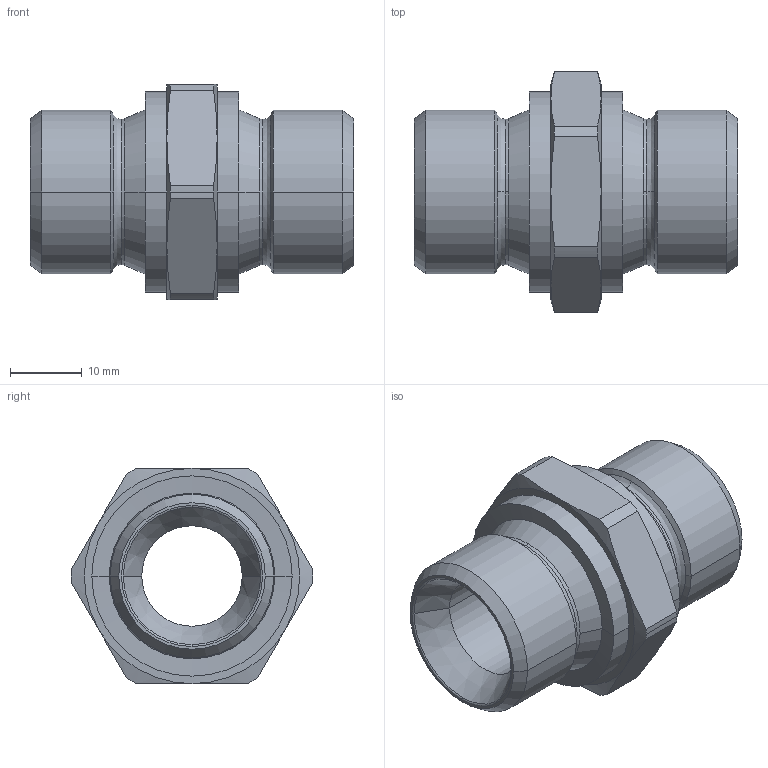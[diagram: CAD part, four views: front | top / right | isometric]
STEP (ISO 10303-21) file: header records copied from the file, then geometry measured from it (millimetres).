
FILE_DESCRIPTION((''),'2;1');
FILE_NAME('300516.stp','2006-09-11T08:11:53',(''),(''),'AutoCAD STEP 2000i','AutoCAD 2000i',', , ');
FILE_SCHEMA(('CONFIG_CONTROL_DESIGN'));
Length unit declared in the file: millimetre
Products named in the file (2): 300516.0; CHIAVE SMUSSATA#0
Assembly tree (1 placements, depth 2):
  300516.0
    CHIAVE SMUSSATA#0
Bounding box: 45 x 33.7 x 30 mm (x, y, z)
Volume: 13953.3 mm3; surface area: 6549.6 mm2
Topology: 1 solids, 1 shells, 72 faces, 170 edges, 102 vertices
Faces by surface type: cone 32, cylinder 18, plane 10, bspline 8, torus 4
Entity records: 2493 total; most frequent: CARTESIAN_POINT 746, DIRECTION 380, ORIENTED_EDGE 340, EDGE_CURVE 170, AXIS2_PLACEMENT_3D 168, VERTEX_POINT 102, CIRCLE 102, EDGE_LOOP 76
